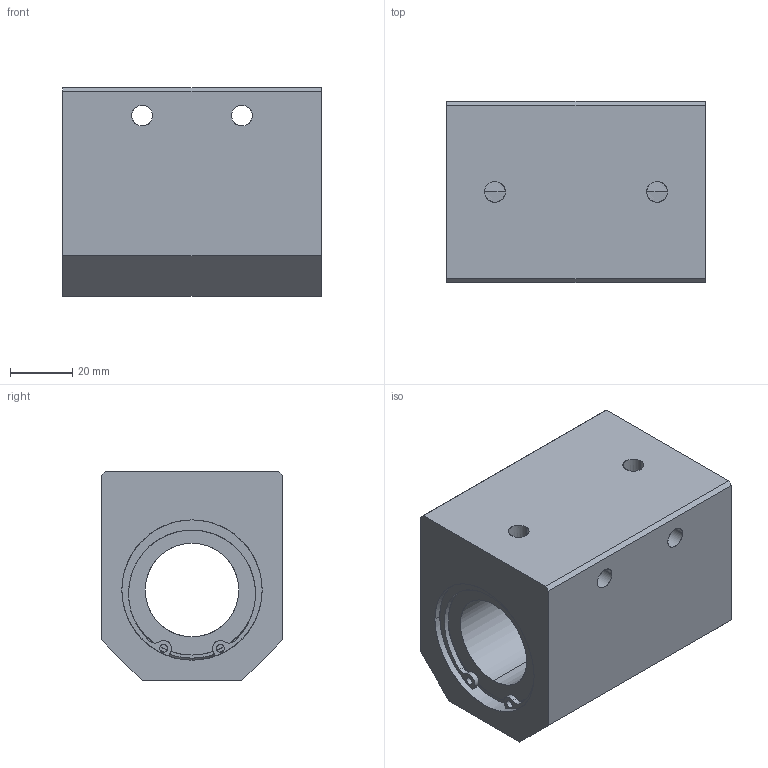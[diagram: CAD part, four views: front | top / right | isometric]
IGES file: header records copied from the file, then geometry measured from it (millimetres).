
Global section: file name: No Iges File Name specified; native system: AutoDesk Inventor R10; preprocessor: AutoDesk Inventor Iges Exporter R10; author: No Author specified; organization: No Organization specified; date: 20101216.152026; units: millimetre
Bounding box: 83 x 58 x 67 mm (x, y, z)
Surface area: 39412 mm2 (no closed solid volume)
Topology: 0 solids, 0 shells, 102 faces, 778 edges, 770 vertices
Faces by surface type: bspline 102
